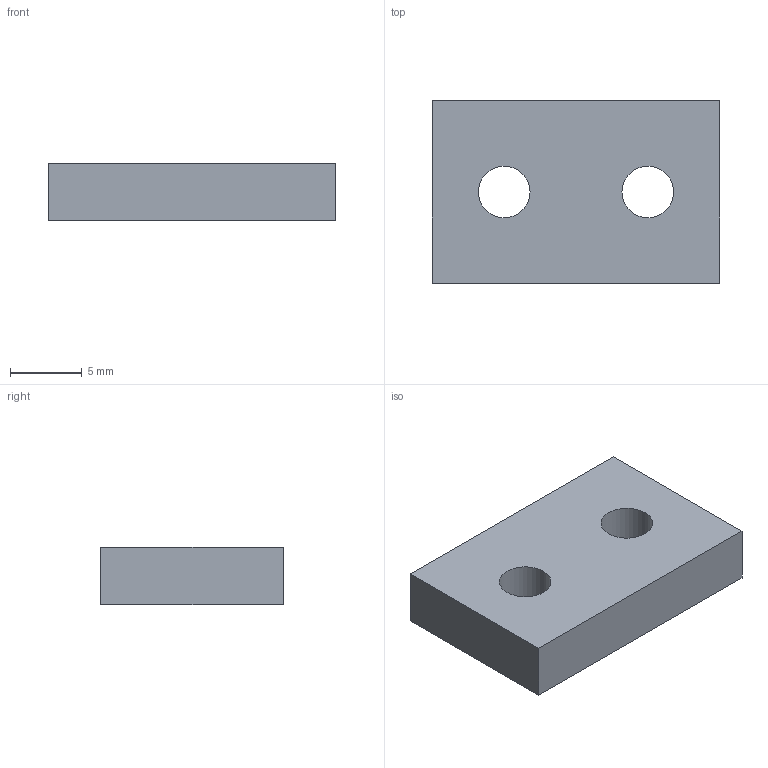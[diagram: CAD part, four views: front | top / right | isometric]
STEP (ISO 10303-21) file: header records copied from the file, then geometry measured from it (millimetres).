
FILE_DESCRIPTION(('FreeCAD Model'),'2;1');
FILE_NAME('Open CASCADE Shape Model','2026-11-06T11:24:15',('FreeCAD'),( 'FreeCAD'),'Open CASCADE STEP processor 7.8','FreeCAD','Unknown');
FILE_SCHEMA(('AUTOMOTIVE_DESIGN { 1 0 10303 214 1 1 1 1 }'));
Length unit declared in the file: millimetre
Products named in the file (1): Open CASCADE STEP translator 7.8 14
Bounding box: 20 x 12.7 x 4 mm (x, y, z)
Volume: 934.6 mm3; surface area: 819.4 mm2
Topology: 1 solids, 1 shells, 8 faces, 18 edges, 12 vertices
Faces by surface type: plane 6, cylinder 2
Full cylindrical faces by diameter (mm): 3.6 x2
Entity records: 244 total; most frequent: DIRECTION 40, CARTESIAN_POINT 39, ORIENTED_EDGE 36, EDGE_CURVE 18, LINE 14, VECTOR 14, AXIS2_PLACEMENT_3D 13, FACE_BOUND 12
